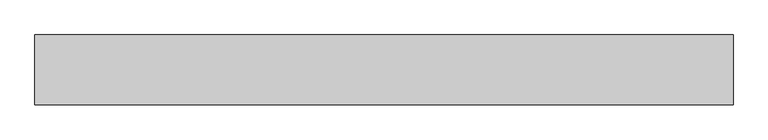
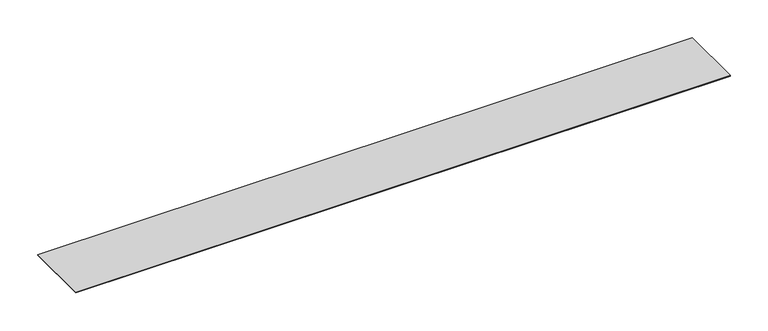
"""IFC4 building model written with IfcOpenShell, lengths in millimetres: proxy geometry, Sika® CarboDur® M914 : Sika® CarboDur® S1012."""

from ifc_helpers import new_model, si_unit, origin, origin_with_axes, place, context, project, spatial, polyline, outline, extrude, source, transform, mapped, element, save


def generic_models_d7413c9f(model_context):
    return source(origin(), model_context, "Body", "SweptSolid", [
        extrude(outline(polyline([(500.1484442, 50.0), (500.1484442, -50.0), (-500.1484442, -50.0), (-500.1484442, 50.0), (500.1484442, 50.0)])), origin_with_axes(), (0.0, 0.0, 1.0), 1.2),
    ])


if __name__ == "__main__":
    model = new_model("IFC4")
    model_context = context("Model", 3, world=origin())
    ifc_project = project(units=[si_unit("LENGTHUNIT", "METRE", prefix="MILLI")], contexts=[model_context])
    site = spatial("IfcSite", under=ifc_project)
    building = spatial("IfcBuilding", under=site)
    placement = place(None, origin())
    generic_models_shape = generic_models_d7413c9f(model_context)
    element("IfcBuildingElementProxy", 1, Name="Sika® CarboDur® M914 : Sika® CarboDur® S1012", ObjectType="Sika® CarboDur® M914 : Sika® CarboDur® S1012", at=placement, inside=building, context=model_context, shape_type="MappedRepresentation", body=[
        mapped(generic_models_shape, transform((0.0, 0.0, 0.0), x_axis=(1.0, 0.0, 0.0), y_axis=(0.0, 1.0, 0.0), z_axis=(0.0, 0.0, 1.0))),
    ])
    save(model, "model.ifc")
